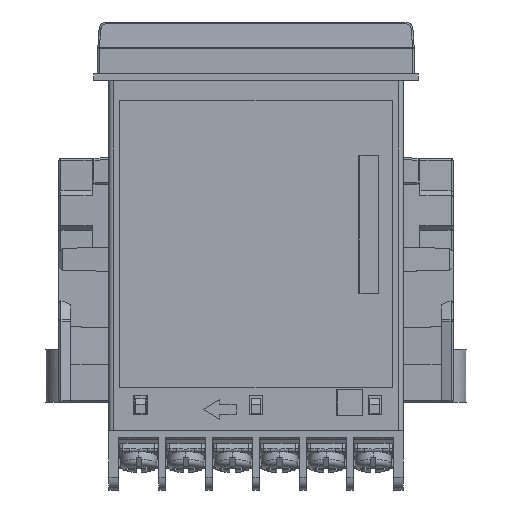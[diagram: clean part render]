
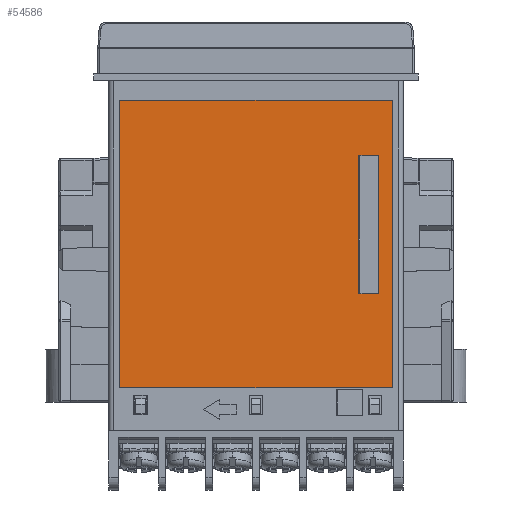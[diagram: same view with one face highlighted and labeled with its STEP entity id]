
A CAD part, left-side view. The second image highlights one B-rep face of the part: STEP entity #54586.
In plain terms, the highlighted planar face has unit normal (-1, 0, 0).
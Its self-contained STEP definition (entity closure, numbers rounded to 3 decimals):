
#3438 = DIRECTION ( 'NONE',  ( 0., 1., 0. ) ) ;
#4227 = EDGE_LOOP ( 'NONE', ( #58749, #169051, #99346, #26845 ) ) ;
#4847 = EDGE_CURVE ( 'NONE', #34143, #42420, #62196, .T. ) ;
#12413 = ORIENTED_EDGE ( 'NONE', *, *, #167318, .F. ) ;
#19892 = DIRECTION ( 'NONE',  ( 0., -1., 0. ) ) ;
#22143 = DIRECTION ( 'NONE',  ( 0., 0., 1. ) ) ;
#24795 = CARTESIAN_POINT ( 'NONE',  ( -22.225, -18.575, -17.65 ) ) ;
#24985 = CARTESIAN_POINT ( 'NONE',  ( -22.225, -20.6, -52.85 ) ) ;
#25024 = EDGE_CURVE ( 'NONE', #55001, #33573, #52672, .T. ) ;
#26845 = ORIENTED_EDGE ( 'NONE', *, *, #48780, .F. ) ;
#29933 = DIRECTION ( 'NONE',  ( 0., 0., 1. ) ) ;
#30378 = CARTESIAN_POINT ( 'NONE',  ( -22.225, 20.6, -9.35 ) ) ;
#33573 = VERTEX_POINT ( 'NONE', #53174 ) ;
#34143 = VERTEX_POINT ( 'NONE', #30378 ) ;
#36268 = ORIENTED_EDGE ( 'NONE', *, *, #25024, .F. ) ;
#36367 = VERTEX_POINT ( 'NONE', #111112 ) ;
#41592 = CARTESIAN_POINT ( 'NONE',  ( -22.225, 20.6, -52.85 ) ) ;
#42420 = VERTEX_POINT ( 'NONE', #75099 ) ;
#48780 = EDGE_CURVE ( 'NONE', #36367, #34143, #164129, .T. ) ;
#50066 = EDGE_CURVE ( 'NONE', #42420, #53679, #162678, .T. ) ;
#52672 = LINE ( 'NONE', #134430, #166506 ) ;
#52735 = VECTOR ( 'NONE', #101984, 1000. ) ;
#53174 = CARTESIAN_POINT ( 'NONE',  ( -22.225, -15.575, -38.65 ) ) ;
#53679 = VERTEX_POINT ( 'NONE', #24985 ) ;
#54586 = ADVANCED_FACE ( 'NONE', ( #116115, #141616 ), #117582, .F. ) ;
#55001 = VERTEX_POINT ( 'NONE', #188154 ) ;
#55831 = CARTESIAN_POINT ( 'NONE',  ( -22.225, -15.575, -38.65 ) ) ;
#58749 = ORIENTED_EDGE ( 'NONE', *, *, #179704, .F. ) ;
#59137 = CARTESIAN_POINT ( 'NONE',  ( -22.225, -20.6, -52.85 ) ) ;
#61350 = CARTESIAN_POINT ( 'NONE',  ( -22.225, -18.575, -38.65 ) ) ;
#62196 = LINE ( 'NONE', #138660, #101660 ) ;
#66352 = DIRECTION ( 'NONE',  ( 0., 0., -1. ) ) ;
#67868 = CARTESIAN_POINT ( 'NONE',  ( -22.225, -18.575, -38.65 ) ) ;
#75099 = CARTESIAN_POINT ( 'NONE',  ( -22.225, -20.6, -9.35 ) ) ;
#78057 = CARTESIAN_POINT ( 'NONE',  ( -22.225, -15.575, -17.65 ) ) ;
#92216 = LINE ( 'NONE', #41592, #52735 ) ;
#99346 = ORIENTED_EDGE ( 'NONE', *, *, #4847, .F. ) ;
#101660 = VECTOR ( 'NONE', #19892, 1000. ) ;
#101984 = DIRECTION ( 'NONE',  ( 0., 1., 0. ) ) ;
#106390 = LINE ( 'NONE', #61350, #111045 ) ;
#111045 = VECTOR ( 'NONE', #165219, 1000. ) ;
#111112 = CARTESIAN_POINT ( 'NONE',  ( -22.225, 20.6, -52.85 ) ) ;
#116115 = FACE_BOUND ( 'NONE', #153766, .T. ) ;
#117582 = PLANE ( 'NONE',  #147463 ) ;
#118556 = VECTOR ( 'NONE', #66352, 1000. ) ;
#118928 = DIRECTION ( 'NONE',  ( 1., 0., 0. ) ) ;
#124664 = VECTOR ( 'NONE', #22143, 1000. ) ;
#125413 = EDGE_CURVE ( 'NONE', #33573, #161936, #189944, .T. ) ;
#134430 = CARTESIAN_POINT ( 'NONE',  ( -22.225, -15.575, -38.65 ) ) ;
#135103 = LINE ( 'NONE', #78057, #174550 ) ;
#138660 = CARTESIAN_POINT ( 'NONE',  ( -22.225, -20.6, -9.35 ) ) ;
#140370 = CARTESIAN_POINT ( 'NONE',  ( -22.225, -20.6, -52.85 ) ) ;
#141616 = FACE_OUTER_BOUND ( 'NONE', #4227, .T. ) ;
#143277 = ORIENTED_EDGE ( 'NONE', *, *, #125413, .F. ) ;
#147463 = AXIS2_PLACEMENT_3D ( 'NONE', #59137, #118928, #29933 ) ;
#150466 = VECTOR ( 'NONE', #175266, 1000. ) ;
#152093 = EDGE_CURVE ( 'NONE', #162601, #55001, #135103, .T. ) ;
#153766 = EDGE_LOOP ( 'NONE', ( #12413, #143277, #36268, #158073 ) ) ;
#155858 = CARTESIAN_POINT ( 'NONE',  ( -22.225, 20.6, -9.35 ) ) ;
#158073 = ORIENTED_EDGE ( 'NONE', *, *, #152093, .F. ) ;
#161936 = VERTEX_POINT ( 'NONE', #67868 ) ;
#162601 = VERTEX_POINT ( 'NONE', #24795 ) ;
#162678 = LINE ( 'NONE', #140370, #118556 ) ;
#164129 = LINE ( 'NONE', #155858, #124664 ) ;
#164222 = DIRECTION ( 'NONE',  ( 0., 0., -1. ) ) ;
#165219 = DIRECTION ( 'NONE',  ( 0., 0., 1. ) ) ;
#166506 = VECTOR ( 'NONE', #164222, 1000. ) ;
#167318 = EDGE_CURVE ( 'NONE', #161936, #162601, #106390, .T. ) ;
#169051 = ORIENTED_EDGE ( 'NONE', *, *, #50066, .F. ) ;
#174550 = VECTOR ( 'NONE', #3438, 1000. ) ;
#175266 = DIRECTION ( 'NONE',  ( 0., -1., 0. ) ) ;
#179704 = EDGE_CURVE ( 'NONE', #53679, #36367, #92216, .T. ) ;
#188154 = CARTESIAN_POINT ( 'NONE',  ( -22.225, -15.575, -17.65 ) ) ;
#189944 = LINE ( 'NONE', #55831, #150466 ) ;
